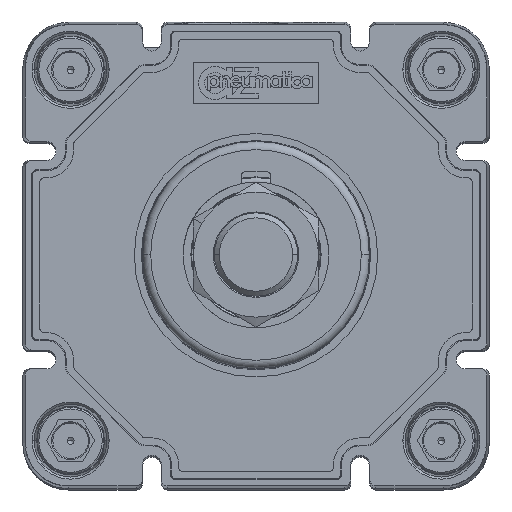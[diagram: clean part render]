
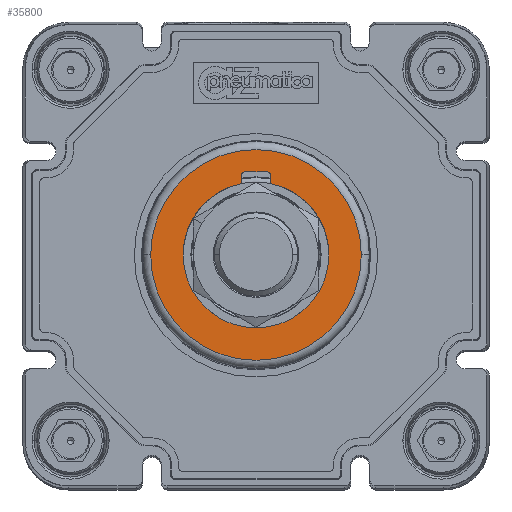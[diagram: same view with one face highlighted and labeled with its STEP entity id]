
A CAD part, top view. The second image highlights one B-rep face of the part: STEP entity #35800.
In plain terms, the highlighted planar face has unit normal (0, 0, 1) as drawn and (0, 0, -1) by its records, which use the part's own axes.
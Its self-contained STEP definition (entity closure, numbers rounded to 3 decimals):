
#591 = ORIENTED_EDGE ( 'NONE', *, *, #9045, .F. ) ;
#939 = DIRECTION ( 'NONE',  ( 0., 0., -1. ) ) ;
#2156 = CIRCLE ( 'NONE', #51528, 1. ) ;
#3374 = DIRECTION ( 'NONE',  ( 1., 0., 0. ) ) ;
#4016 = FACE_BOUND ( 'NONE', #9351, .T. ) ;
#4483 = DIRECTION ( 'NONE',  ( 0., 0., -1. ) ) ;
#4974 = CIRCLE ( 'NONE', #40556, 17.5 ) ;
#5347 = CARTESIAN_POINT ( 'NONE',  ( 3.5, 17.146, -72. ) ) ;
#5908 = CIRCLE ( 'NONE', #31878, 17.5 ) ;
#7001 = EDGE_CURVE ( 'NONE', #26278, #12289, #33988, .T. ) ;
#7005 = CARTESIAN_POINT ( 'NONE',  ( 17.5, 0., -72. ) ) ;
#7649 = CARTESIAN_POINT ( 'NONE',  ( 0., 0., -72. ) ) ;
#8560 = DIRECTION ( 'NONE',  ( 0., 0., -1. ) ) ;
#8569 = ORIENTED_EDGE ( 'NONE', *, *, #7001, .T. ) ;
#9045 = EDGE_CURVE ( 'NONE', #53295, #25966, #43904, .T. ) ;
#9346 = CARTESIAN_POINT ( 'NONE',  ( -17.5, 0., -72. ) ) ;
#9351 = EDGE_LOOP ( 'NONE', ( #41767, #8569, #53469, #40693, #25632, #49497, #591, #52922 ) ) ;
#10127 = DIRECTION ( 'NONE',  ( 0., 0., 1. ) ) ;
#10667 = CIRCLE ( 'NONE', #39289, 25.282 ) ;
#10852 = DIRECTION ( 'NONE',  ( 0., 0., 1. ) ) ;
#10867 = VECTOR ( 'NONE', #48305, 1000. ) ;
#10970 = VECTOR ( 'NONE', #53391, 1000. ) ;
#11399 = DIRECTION ( 'NONE',  ( 1., 0., 0. ) ) ;
#12289 = VERTEX_POINT ( 'NONE', #9346 ) ;
#12741 = CARTESIAN_POINT ( 'NONE',  ( -3.5, 17.146, -72. ) ) ;
#14575 = DIRECTION ( 'NONE',  ( 0., 0., -1. ) ) ;
#15705 = CARTESIAN_POINT ( 'NONE',  ( -2.5, 20., -72. ) ) ;
#16512 = VERTEX_POINT ( 'NONE', #7005 ) ;
#16683 = DIRECTION ( 'NONE',  ( -1., 0., 0. ) ) ;
#16761 = EDGE_LOOP ( 'NONE', ( #38833, #18902 ) ) ;
#17800 = CIRCLE ( 'NONE', #33983, 1. ) ;
#18330 = CARTESIAN_POINT ( 'NONE',  ( -2.5, 19., -72. ) ) ;
#18902 = ORIENTED_EDGE ( 'NONE', *, *, #23684, .T. ) ;
#19987 = CARTESIAN_POINT ( 'NONE',  ( 3.5, 19., -72. ) ) ;
#20984 = CARTESIAN_POINT ( 'NONE',  ( 0., 0., -72. ) ) ;
#22171 = LINE ( 'NONE', #23464, #10970 ) ;
#23464 = CARTESIAN_POINT ( 'NONE',  ( -3.5, 19., -72. ) ) ;
#23684 = EDGE_CURVE ( 'NONE', #32549, #24011, #10667, .T. ) ;
#23923 = CARTESIAN_POINT ( 'NONE',  ( 2.5, 20., -72. ) ) ;
#24011 = VERTEX_POINT ( 'NONE', #54936 ) ;
#24405 = EDGE_CURVE ( 'NONE', #48066, #53295, #17800, .T. ) ;
#25316 = CARTESIAN_POINT ( 'NONE',  ( -3.5, 19., -72. ) ) ;
#25632 = ORIENTED_EDGE ( 'NONE', *, *, #50316, .F. ) ;
#25966 = VERTEX_POINT ( 'NONE', #41035 ) ;
#26278 = VERTEX_POINT ( 'NONE', #12741 ) ;
#26586 = DIRECTION ( 'NONE',  ( 1., 0., 0. ) ) ;
#27357 = EDGE_CURVE ( 'NONE', #12289, #16512, #4974, .T. ) ;
#28051 = VECTOR ( 'NONE', #3374, 1000. ) ;
#28560 = DIRECTION ( 'NONE',  ( 0., 0., -1. ) ) ;
#29056 = DIRECTION ( 'NONE',  ( 0., 0., 1. ) ) ;
#29110 = DIRECTION ( 'NONE',  ( -1., 0., 0. ) ) ;
#29216 = CARTESIAN_POINT ( 'NONE',  ( 0., 0., -72. ) ) ;
#30214 = EDGE_CURVE ( 'NONE', #25966, #42830, #2156, .T. ) ;
#30623 = VERTEX_POINT ( 'NONE', #5347 ) ;
#31878 = AXIS2_PLACEMENT_3D ( 'NONE', #36327, #10852, #11399 ) ;
#32088 = CARTESIAN_POINT ( 'NONE',  ( 0., 0., -72. ) ) ;
#32549 = VERTEX_POINT ( 'NONE', #42468 ) ;
#32741 = CIRCLE ( 'NONE', #44645, 25.282 ) ;
#33983 = AXIS2_PLACEMENT_3D ( 'NONE', #18330, #939, #26586 ) ;
#33988 = CIRCLE ( 'NONE', #36154, 17.5 ) ;
#35800 = ADVANCED_FACE ( 'NONE', ( #52481, #4016 ), #46388, .T. ) ;
#36154 = AXIS2_PLACEMENT_3D ( 'NONE', #7649, #29056, #37403 ) ;
#36181 = DIRECTION ( 'NONE',  ( -1., 0., 0. ) ) ;
#36327 = CARTESIAN_POINT ( 'NONE',  ( 0., 0., -72. ) ) ;
#37063 = EDGE_CURVE ( 'NONE', #26278, #48066, #22171, .T. ) ;
#37403 = DIRECTION ( 'NONE',  ( 1., 0., 0. ) ) ;
#38833 = ORIENTED_EDGE ( 'NONE', *, *, #48977, .T. ) ;
#39289 = AXIS2_PLACEMENT_3D ( 'NONE', #29216, #8560, #16683 ) ;
#40556 = AXIS2_PLACEMENT_3D ( 'NONE', #43631, #10127, #48254 ) ;
#40693 = ORIENTED_EDGE ( 'NONE', *, *, #43689, .T. ) ;
#41035 = CARTESIAN_POINT ( 'NONE',  ( 2.5, 20., -72. ) ) ;
#41767 = ORIENTED_EDGE ( 'NONE', *, *, #37063, .F. ) ;
#42468 = CARTESIAN_POINT ( 'NONE',  ( 25.282, 0., -72. ) ) ;
#42830 = VERTEX_POINT ( 'NONE', #19987 ) ;
#43631 = CARTESIAN_POINT ( 'NONE',  ( 0., 0., -72. ) ) ;
#43689 = EDGE_CURVE ( 'NONE', #16512, #30623, #5908, .T. ) ;
#43904 = LINE ( 'NONE', #23923, #28051 ) ;
#44405 = CARTESIAN_POINT ( 'NONE',  ( 2.5, 19., -72. ) ) ;
#44645 = AXIS2_PLACEMENT_3D ( 'NONE', #32088, #28560, #29110 ) ;
#46388 = PLANE ( 'NONE',  #47891 ) ;
#47891 = AXIS2_PLACEMENT_3D ( 'NONE', #20984, #4483, #50671 ) ;
#48066 = VERTEX_POINT ( 'NONE', #25316 ) ;
#48254 = DIRECTION ( 'NONE',  ( 1., 0., 0. ) ) ;
#48305 = DIRECTION ( 'NONE',  ( 0., -1., 0. ) ) ;
#48488 = CARTESIAN_POINT ( 'NONE',  ( 3.5, 19., -72. ) ) ;
#48977 = EDGE_CURVE ( 'NONE', #24011, #32549, #32741, .T. ) ;
#49497 = ORIENTED_EDGE ( 'NONE', *, *, #30214, .F. ) ;
#50316 = EDGE_CURVE ( 'NONE', #42830, #30623, #51949, .T. ) ;
#50671 = DIRECTION ( 'NONE',  ( -1., 0., 0. ) ) ;
#51528 = AXIS2_PLACEMENT_3D ( 'NONE', #44405, #14575, #36181 ) ;
#51949 = LINE ( 'NONE', #48488, #10867 ) ;
#52481 = FACE_OUTER_BOUND ( 'NONE', #16761, .T. ) ;
#52922 = ORIENTED_EDGE ( 'NONE', *, *, #24405, .F. ) ;
#53295 = VERTEX_POINT ( 'NONE', #15705 ) ;
#53391 = DIRECTION ( 'NONE',  ( 0., 1., 0. ) ) ;
#53469 = ORIENTED_EDGE ( 'NONE', *, *, #27357, .T. ) ;
#54936 = CARTESIAN_POINT ( 'NONE',  ( -25.282, 0., -72. ) ) ;
